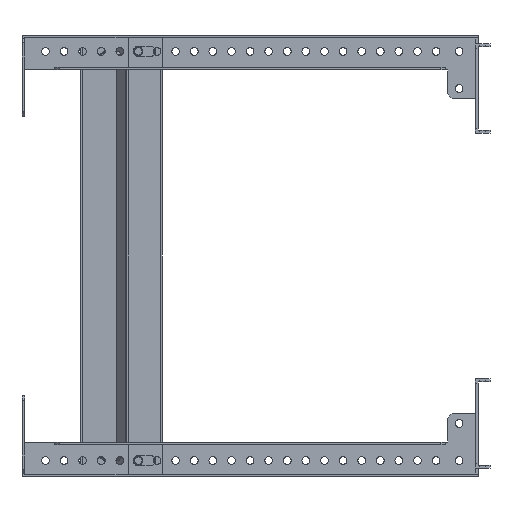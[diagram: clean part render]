
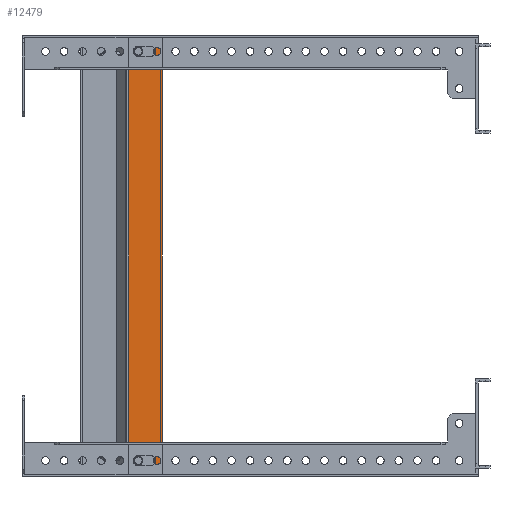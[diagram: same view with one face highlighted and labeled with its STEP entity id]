
A CAD part, front view. The second image highlights one B-rep face of the part: STEP entity #12479.
In plain terms, the highlighted planar face has unit normal (0, -1, 0).
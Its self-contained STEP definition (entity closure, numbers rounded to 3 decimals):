
#208 = FACE_OUTER_BOUND ( 'NONE', #26635, .T. ) ;
#950 = LINE ( 'NONE', #8765, #7619 ) ;
#1058 = EDGE_CURVE ( 'NONE', #5956, #22104, #20734, .T. ) ;
#1266 = LINE ( 'NONE', #21973, #4669 ) ;
#1293 = DIRECTION ( 'NONE',  ( 0., 0., 1. ) ) ;
#1352 = VERTEX_POINT ( 'NONE', #26745 ) ;
#1480 = VERTEX_POINT ( 'NONE', #24721 ) ;
#1589 = DIRECTION ( 'NONE',  ( 1., 0., 0. ) ) ;
#1728 = DIRECTION ( 'NONE',  ( -1., 0., 0. ) ) ;
#1928 = CARTESIAN_POINT ( 'NONE',  ( 1108.77, -253.815, -137.5 ) ) ;
#2152 = EDGE_CURVE ( 'NONE', #1352, #5956, #31994, .T. ) ;
#2187 = VERTEX_POINT ( 'NONE', #1928 ) ;
#2204 = EDGE_CURVE ( 'NONE', #30541, #3546, #17365, .T. ) ;
#2542 = LINE ( 'NONE', #23087, #16255 ) ;
#2709 = CARTESIAN_POINT ( 'NONE',  ( 1105.77, -253.815, -147.5 ) ) ;
#2880 = CARTESIAN_POINT ( 'NONE',  ( 1112.27, -253.815, -137.5 ) ) ;
#3111 = CIRCLE ( 'NONE', #13942, 3.5 ) ;
#3289 = DIRECTION ( 'NONE',  ( 0., 1., 0. ) ) ;
#3546 = VERTEX_POINT ( 'NONE', #2709 ) ;
#3737 = AXIS2_PLACEMENT_3D ( 'NONE', #33031, #20079, #16696 ) ;
#4014 = ORIENTED_EDGE ( 'NONE', *, *, #29728, .F. ) ;
#4375 = EDGE_CURVE ( 'NONE', #31274, #24220, #21402, .T. ) ;
#4669 = VECTOR ( 'NONE', #19580, 1000. ) ;
#4896 = CARTESIAN_POINT ( 'NONE',  ( 1120.27, -253.815, 137.5 ) ) ;
#4939 = VECTOR ( 'NONE', #7103, 1000. ) ;
#5956 = VERTEX_POINT ( 'NONE', #13613 ) ;
#6033 = DIRECTION ( 'NONE',  ( -1., 0., 0. ) ) ;
#6756 = CARTESIAN_POINT ( 'NONE',  ( 1112.27, -253.815, -141. ) ) ;
#6897 = CARTESIAN_POINT ( 'NONE',  ( 1120.27, -253.815, -134. ) ) ;
#7103 = DIRECTION ( 'NONE',  ( 1., 0., 0. ) ) ;
#7190 = DIRECTION ( 'NONE',  ( 1., 0., 0. ) ) ;
#7619 = VECTOR ( 'NONE', #1293, 1000. ) ;
#8113 = ORIENTED_EDGE ( 'NONE', *, *, #4375, .T. ) ;
#8135 = EDGE_CURVE ( 'NONE', #29095, #29249, #33568, .T. ) ;
#8243 = ORIENTED_EDGE ( 'NONE', *, *, #26743, .F. ) ;
#8765 = CARTESIAN_POINT ( 'NONE',  ( 1105.77, -253.815, -147.5 ) ) ;
#8871 = DIRECTION ( 'NONE',  ( 0., 1., 0. ) ) ;
#9202 = CARTESIAN_POINT ( 'NONE',  ( 1112.27, -253.815, -137.5 ) ) ;
#9269 = CARTESIAN_POINT ( 'NONE',  ( 1108.77, -253.815, 137.5 ) ) ;
#9709 = CARTESIAN_POINT ( 'NONE',  ( 1105.77, -253.815, 147.5 ) ) ;
#9816 = AXIS2_PLACEMENT_3D ( 'NONE', #2880, #21378, #18819 ) ;
#9982 = VECTOR ( 'NONE', #15148, 1000. ) ;
#10166 = VERTEX_POINT ( 'NONE', #20171 ) ;
#10564 = FACE_BOUND ( 'NONE', #21410, .T. ) ;
#10729 = FACE_BOUND ( 'NONE', #16303, .T. ) ;
#10953 = EDGE_CURVE ( 'NONE', #30541, #1480, #1266, .T. ) ;
#11396 = PLANE ( 'NONE',  #13245 ) ;
#11412 = VERTEX_POINT ( 'NONE', #23375 ) ;
#12255 = LINE ( 'NONE', #9709, #31196 ) ;
#12479 = ADVANCED_FACE ( 'NONE', ( #208, #10564, #10729 ), #11396, .F. ) ;
#12610 = AXIS2_PLACEMENT_3D ( 'NONE', #4896, #25586, #33095 ) ;
#12721 = EDGE_CURVE ( 'NONE', #11412, #1480, #12255, .T. ) ;
#13086 = CARTESIAN_POINT ( 'NONE',  ( 1112.27, -253.815, 137.5 ) ) ;
#13245 = AXIS2_PLACEMENT_3D ( 'NONE', #27019, #8871, #24644 ) ;
#13475 = ORIENTED_EDGE ( 'NONE', *, *, #15578, .F. ) ;
#13613 = CARTESIAN_POINT ( 'NONE',  ( 1120.27, -253.815, 141. ) ) ;
#13942 = AXIS2_PLACEMENT_3D ( 'NONE', #9202, #24297, #1728 ) ;
#14746 = ORIENTED_EDGE ( 'NONE', *, *, #10953, .T. ) ;
#15148 = DIRECTION ( 'NONE',  ( -1., 0., 0. ) ) ;
#15578 = EDGE_CURVE ( 'NONE', #3546, #11412, #950, .T. ) ;
#16255 = VECTOR ( 'NONE', #20676, 1000. ) ;
#16303 = EDGE_LOOP ( 'NONE', ( #8113, #21817, #18938, #18593, #22453 ) ) ;
#16536 = CARTESIAN_POINT ( 'NONE',  ( 1112.27, -253.815, 137.5 ) ) ;
#16696 = DIRECTION ( 'NONE',  ( -1., 0., 0. ) ) ;
#16773 = CIRCLE ( 'NONE', #27642, 3.5 ) ;
#17094 = LINE ( 'NONE', #6756, #4939 ) ;
#17365 = LINE ( 'NONE', #22787, #9982 ) ;
#17415 = ORIENTED_EDGE ( 'NONE', *, *, #8135, .F. ) ;
#17582 = VECTOR ( 'NONE', #1589, 1000. ) ;
#18593 = ORIENTED_EDGE ( 'NONE', *, *, #1058, .T. ) ;
#18819 = DIRECTION ( 'NONE',  ( -1., 0., 0. ) ) ;
#18938 = ORIENTED_EDGE ( 'NONE', *, *, #2152, .T. ) ;
#19234 = AXIS2_PLACEMENT_3D ( 'NONE', #16536, #3289, #6033 ) ;
#19580 = DIRECTION ( 'NONE',  ( 0., 0., 1. ) ) ;
#19588 = CARTESIAN_POINT ( 'NONE',  ( 1128.272, -253.815, -147.5 ) ) ;
#20079 = DIRECTION ( 'NONE',  ( 0., -1., 0. ) ) ;
#20100 = ORIENTED_EDGE ( 'NONE', *, *, #21996, .F. ) ;
#20171 = CARTESIAN_POINT ( 'NONE',  ( 1112.27, -253.815, -134. ) ) ;
#20676 = DIRECTION ( 'NONE',  ( -1., 0., 0. ) ) ;
#20734 = CIRCLE ( 'NONE', #12610, 3.5 ) ;
#20850 = EDGE_CURVE ( 'NONE', #24220, #1352, #16773, .T. ) ;
#20935 = ORIENTED_EDGE ( 'NONE', *, *, #29689, .F. ) ;
#20984 = VECTOR ( 'NONE', #29390, 1000. ) ;
#21314 = EDGE_CURVE ( 'NONE', #22104, #31274, #2542, .T. ) ;
#21377 = CARTESIAN_POINT ( 'NONE',  ( 1112.27, -253.815, 134. ) ) ;
#21378 = DIRECTION ( 'NONE',  ( 0., -1., 0. ) ) ;
#21402 = CIRCLE ( 'NONE', #19234, 3.5 ) ;
#21410 = EDGE_LOOP ( 'NONE', ( #8243, #20935, #20100, #4014, #17415 ) ) ;
#21817 = ORIENTED_EDGE ( 'NONE', *, *, #20850, .T. ) ;
#21973 = CARTESIAN_POINT ( 'NONE',  ( 1128.272, -253.815, -150.859 ) ) ;
#21996 = EDGE_CURVE ( 'NONE', #10166, #2187, #24427, .T. ) ;
#22104 = VERTEX_POINT ( 'NONE', #24266 ) ;
#22265 = CARTESIAN_POINT ( 'NONE',  ( 1112.27, -253.815, -134. ) ) ;
#22363 = CARTESIAN_POINT ( 'NONE',  ( 1120.27, -253.815, -141. ) ) ;
#22453 = ORIENTED_EDGE ( 'NONE', *, *, #21314, .T. ) ;
#22526 = ORIENTED_EDGE ( 'NONE', *, *, #12721, .F. ) ;
#22787 = CARTESIAN_POINT ( 'NONE',  ( 1150.113, -253.815, -147.5 ) ) ;
#23087 = CARTESIAN_POINT ( 'NONE',  ( 1112.27, -253.815, 134. ) ) ;
#23375 = CARTESIAN_POINT ( 'NONE',  ( 1105.77, -253.815, 147.5 ) ) ;
#24220 = VERTEX_POINT ( 'NONE', #9269 ) ;
#24266 = CARTESIAN_POINT ( 'NONE',  ( 1120.27, -253.815, 134. ) ) ;
#24297 = DIRECTION ( 'NONE',  ( 0., -1., 0. ) ) ;
#24427 = CIRCLE ( 'NONE', #9816, 3.5 ) ;
#24644 = DIRECTION ( 'NONE',  ( 1., 0., 0. ) ) ;
#24721 = CARTESIAN_POINT ( 'NONE',  ( 1128.272, -253.815, 147.5 ) ) ;
#24843 = CARTESIAN_POINT ( 'NONE',  ( 1112.27, -253.815, 141. ) ) ;
#25586 = DIRECTION ( 'NONE',  ( 0., 1., 0. ) ) ;
#26332 = DIRECTION ( 'NONE',  ( -1., 0., 0. ) ) ;
#26377 = ORIENTED_EDGE ( 'NONE', *, *, #2204, .F. ) ;
#26635 = EDGE_LOOP ( 'NONE', ( #22526, #13475, #26377, #14746 ) ) ;
#26743 = EDGE_CURVE ( 'NONE', #33604, #29095, #17094, .T. ) ;
#26745 = CARTESIAN_POINT ( 'NONE',  ( 1112.27, -253.815, 141. ) ) ;
#27019 = CARTESIAN_POINT ( 'NONE',  ( 1150.737, -253.815, 0. ) ) ;
#27642 = AXIS2_PLACEMENT_3D ( 'NONE', #13086, #30942, #26332 ) ;
#29095 = VERTEX_POINT ( 'NONE', #22363 ) ;
#29249 = VERTEX_POINT ( 'NONE', #6897 ) ;
#29390 = DIRECTION ( 'NONE',  ( -1., 0., 0. ) ) ;
#29689 = EDGE_CURVE ( 'NONE', #2187, #33604, #3111, .T. ) ;
#29728 = EDGE_CURVE ( 'NONE', #29249, #10166, #32130, .T. ) ;
#30541 = VERTEX_POINT ( 'NONE', #19588 ) ;
#30942 = DIRECTION ( 'NONE',  ( 0., 1., 0. ) ) ;
#31196 = VECTOR ( 'NONE', #7190, 1000. ) ;
#31274 = VERTEX_POINT ( 'NONE', #21377 ) ;
#31994 = LINE ( 'NONE', #24843, #17582 ) ;
#32130 = LINE ( 'NONE', #22265, #20984 ) ;
#32763 = CARTESIAN_POINT ( 'NONE',  ( 1112.27, -253.815, -141. ) ) ;
#33031 = CARTESIAN_POINT ( 'NONE',  ( 1120.27, -253.815, -137.5 ) ) ;
#33095 = DIRECTION ( 'NONE',  ( -1., 0., 0. ) ) ;
#33568 = CIRCLE ( 'NONE', #3737, 3.5 ) ;
#33604 = VERTEX_POINT ( 'NONE', #32763 ) ;
